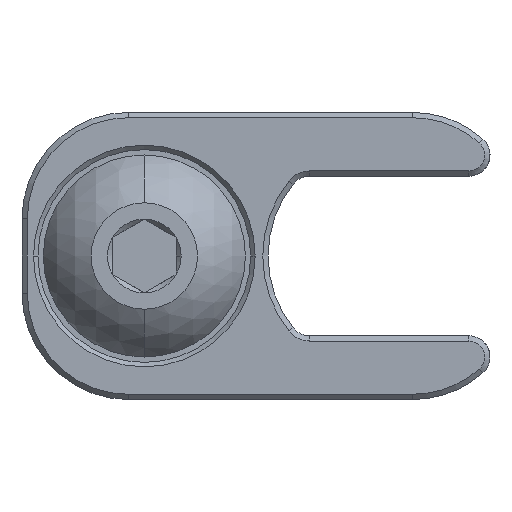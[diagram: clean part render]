
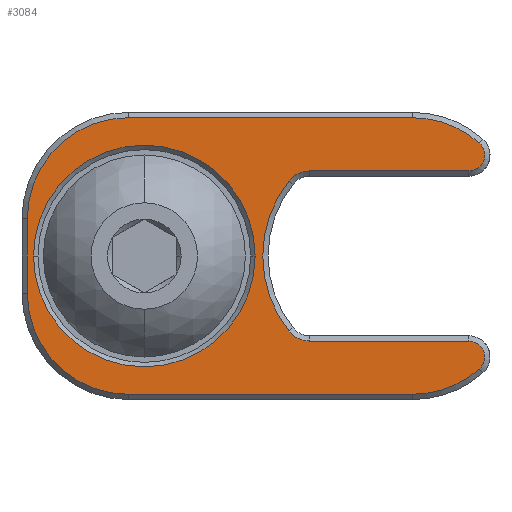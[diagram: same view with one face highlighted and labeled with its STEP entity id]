
A CAD part, front view. The second image highlights one B-rep face of the part: STEP entity #3084.
In plain terms, the highlighted planar face has unit normal (0, -1, 0) as drawn and (0, 0, -1) by its records, which use the part's own axes.
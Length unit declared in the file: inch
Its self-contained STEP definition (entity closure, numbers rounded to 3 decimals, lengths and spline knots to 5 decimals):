
#35 = EDGE_CURVE ( 'NONE', #6166, #247, #1866, .T. ) ;
#103 = DIRECTION ( 'NONE',  ( -1., 0., 0. ) ) ;
#132 = CIRCLE ( 'NONE', #3838, 0.18699 ) ;
#211 = VERTEX_POINT ( 'NONE', #4025 ) ;
#225 = FACE_BOUND ( 'NONE', #6592, .T. ) ;
#233 = CIRCLE ( 'NONE', #3285, 0.18699 ) ;
#239 = EDGE_CURVE ( 'NONE', #6177, #4937, #7211, .T. ) ;
#247 = VERTEX_POINT ( 'NONE', #6080 ) ;
#295 = CARTESIAN_POINT ( 'NONE',  ( -0.30331, 0.06891, 11.43717 ) ) ;
#450 = CARTESIAN_POINT ( 'NONE',  ( 0.40947, -0.06891, 11.43717 ) ) ;
#487 = LINE ( 'NONE', #2513, #2514 ) ;
#514 = DIRECTION ( 'NONE',  ( 0., 0., 1. ) ) ;
#553 = ORIENTED_EDGE ( 'NONE', *, *, #1670, .T. ) ;
#680 = LINE ( 'NONE', #3264, #5806 ) ;
#683 = ORIENTED_EDGE ( 'NONE', *, *, #5280, .T. ) ;
#749 = CIRCLE ( 'NONE', #6493, 0.18699 ) ;
#803 = AXIS2_PLACEMENT_3D ( 'NONE', #5541, #3586, #3545 ) ;
#806 = PLANE ( 'NONE',  #1698 ) ;
#853 = LINE ( 'NONE', #4735, #7163 ) ;
#932 = ORIENTED_EDGE ( 'NONE', *, *, #3104, .T. ) ;
#1015 = DIRECTION ( 'NONE',  ( 0., 1., 0. ) ) ;
#1033 = CIRCLE ( 'NONE', #2763, 0.02953 ) ;
#1063 = CARTESIAN_POINT ( 'NONE',  ( -0.11312, 0.15748, 11.43717 ) ) ;
#1098 = CARTESIAN_POINT ( 'NONE',  ( 0.22248, 0.06891, 11.43717 ) ) ;
#1137 = DIRECTION ( 'NONE',  ( 0., 0., 1. ) ) ;
#1186 = ORIENTED_EDGE ( 'NONE', *, *, #4013, .F. ) ;
#1214 = ORIENTED_EDGE ( 'NONE', *, *, #6333, .F. ) ;
#1491 = DIRECTION ( 'NONE',  ( 1., 0., 0. ) ) ;
#1512 = DIRECTION ( 'NONE',  ( 0., 0., 1. ) ) ;
#1528 = DIRECTION ( 'NONE',  ( 0., 0., 1. ) ) ;
#1543 = CIRCLE ( 'NONE', #7284, 0.04921 ) ;
#1558 = DIRECTION ( 'NONE',  ( 0., 0., 1. ) ) ;
#1565 = AXIS2_PLACEMENT_3D ( 'NONE', #5856, #6321, #103 ) ;
#1661 = EDGE_CURVE ( 'NONE', #247, #7386, #853, .T. ) ;
#1670 = EDGE_CURVE ( 'NONE', #7495, #5085, #4490, .T. ) ;
#1698 = AXIS2_PLACEMENT_3D ( 'NONE', #6065, #2098, #5357 ) ;
#1777 = EDGE_CURVE ( 'NONE', #2917, #1840, #233, .T. ) ;
#1787 = VERTEX_POINT ( 'NONE', #1847 ) ;
#1840 = VERTEX_POINT ( 'NONE', #6820 ) ;
#1847 = CARTESIAN_POINT ( 'NONE',  ( -0.01215, 0., 11.43717 ) ) ;
#1866 = CIRCLE ( 'NONE', #803, 0.02953 ) ;
#1908 = ORIENTED_EDGE ( 'NONE', *, *, #6308, .T. ) ;
#1925 = DIRECTION ( 'NONE',  ( 0., 0., 1. ) ) ;
#1970 = VECTOR ( 'NONE', #5823, 39.37008 ) ;
#1973 = EDGE_CURVE ( 'NONE', #2169, #7495, #2890, .T. ) ;
#2030 = EDGE_CURVE ( 'NONE', #5432, #7844, #1033, .T. ) ;
#2051 = ORIENTED_EDGE ( 'NONE', *, *, #35, .F. ) ;
#2098 = DIRECTION ( 'NONE',  ( 0., 0., -1. ) ) ;
#2146 = CARTESIAN_POINT ( 'NONE',  ( 0.19291, 0., 11.43717 ) ) ;
#2169 = VERTEX_POINT ( 'NONE', #4338 ) ;
#2197 = CARTESIAN_POINT ( 'NONE',  ( 10.24206, 0.25591, 11.43717 ) ) ;
#2257 = ORIENTED_EDGE ( 'NONE', *, *, #3707, .F. ) ;
#2267 = CARTESIAN_POINT ( 'NONE',  ( -0.40746, -0.18701, 11.43717 ) ) ;
#2311 = CARTESIAN_POINT ( 'NONE',  ( -0.42699, 0.20915, 11.43717 ) ) ;
#2428 = LINE ( 'NONE', #4975, #4889 ) ;
#2513 = CARTESIAN_POINT ( 'NONE',  ( -0.32546, -0.15748, 11.43717 ) ) ;
#2514 = VECTOR ( 'NONE', #5192, 39.37008 ) ;
#2763 = AXIS2_PLACEMENT_3D ( 'NONE', #2267, #5392, #7151 ) ;
#2795 = EDGE_CURVE ( 'NONE', #1840, #3729, #5204, .T. ) ;
#2890 = CIRCLE ( 'NONE', #1565, 0.04921 ) ;
#2917 = VERTEX_POINT ( 'NONE', #7865 ) ;
#2932 = ORIENTED_EDGE ( 'NONE', *, *, #2030, .F. ) ;
#3026 = CARTESIAN_POINT ( 'NONE',  ( -0.42699, -0.20915, 11.43717 ) ) ;
#3052 = DIRECTION ( 'NONE',  ( 1., 0., 0. ) ) ;
#3084 = ADVANCED_FACE ( 'NONE', ( #225, #7806 ), #806, .T. ) ;
#3104 = EDGE_CURVE ( 'NONE', #211, #1787, #3308, .T. ) ;
#3131 = DIRECTION ( 'NONE',  ( 1., 0., 0. ) ) ;
#3264 = CARTESIAN_POINT ( 'NONE',  ( 10.24206, -0.25591, 11.43717 ) ) ;
#3285 = AXIS2_PLACEMENT_3D ( 'NONE', #1098, #1137, #7566 ) ;
#3308 = CIRCLE ( 'NONE', #8218, 0.20506 ) ;
#3363 = CARTESIAN_POINT ( 'NONE',  ( 0.22248, -0.06891, 11.43717 ) ) ;
#3472 = AXIS2_PLACEMENT_3D ( 'NONE', #3363, #4833, #6038 ) ;
#3545 = DIRECTION ( 'NONE',  ( 1., 0., 0. ) ) ;
#3586 = DIRECTION ( 'NONE',  ( 0., 0., 1. ) ) ;
#3667 = CARTESIAN_POINT ( 'NONE',  ( -0.30331, -0.25591, 11.43717 ) ) ;
#3707 = EDGE_CURVE ( 'NONE', #3729, #6166, #132, .T. ) ;
#3729 = VERTEX_POINT ( 'NONE', #5211 ) ;
#3838 = AXIS2_PLACEMENT_3D ( 'NONE', #295, #1528, #1491 ) ;
#3840 = CARTESIAN_POINT ( 'NONE',  ( -0.07453, -0.1388, 11.43717 ) ) ;
#3999 = ORIENTED_EDGE ( 'NONE', *, *, #1777, .F. ) ;
#4013 = EDGE_CURVE ( 'NONE', #2169, #5432, #487, .T. ) ;
#4025 = CARTESIAN_POINT ( 'NONE',  ( 0.39797, 0., 11.43717 ) ) ;
#4051 = DIRECTION ( 'NONE',  ( -1., 0., 0. ) ) ;
#4108 = DIRECTION ( 'NONE',  ( -1., 0., 0. ) ) ;
#4228 = CARTESIAN_POINT ( 'NONE',  ( 0.22248, -0.25591, 11.43717 ) ) ;
#4231 = ORIENTED_EDGE ( 'NONE', *, *, #4317, .F. ) ;
#4317 = EDGE_CURVE ( 'NONE', #4937, #2917, #2428, .T. ) ;
#4338 = CARTESIAN_POINT ( 'NONE',  ( -0.11312, -0.15748, 11.43717 ) ) ;
#4339 = EDGE_CURVE ( 'NONE', #7844, #8157, #749, .T. ) ;
#4490 = CIRCLE ( 'NONE', #7946, 0.22373 ) ;
#4519 = DIRECTION ( 'NONE',  ( 0., 0., 1. ) ) ;
#4735 = CARTESIAN_POINT ( 'NONE',  ( -0.32546, 0.15748, 11.43717 ) ) ;
#4833 = DIRECTION ( 'NONE',  ( 0., 0., 1. ) ) ;
#4834 = ORIENTED_EDGE ( 'NONE', *, *, #1973, .T. ) ;
#4889 = VECTOR ( 'NONE', #1015, 39.37008 ) ;
#4937 = VERTEX_POINT ( 'NONE', #450 ) ;
#4975 = CARTESIAN_POINT ( 'NONE',  ( 0.40947, -1.01469, 11.43717 ) ) ;
#5027 = AXIS2_PLACEMENT_3D ( 'NONE', #5927, #4519, #8155 ) ;
#5085 = VERTEX_POINT ( 'NONE', #5673 ) ;
#5192 = DIRECTION ( 'NONE',  ( -1., 0., 0. ) ) ;
#5204 = LINE ( 'NONE', #2197, #1970 ) ;
#5211 = CARTESIAN_POINT ( 'NONE',  ( -0.30331, 0.25591, 11.43717 ) ) ;
#5224 = EDGE_LOOP ( 'NONE', ( #2051, #2257, #6665, #3999, #4231, #7626, #1214, #7712, #2932, #1186, #4834, #553, #1908, #5340 ) ) ;
#5280 = EDGE_CURVE ( 'NONE', #1787, #211, #5303, .T. ) ;
#5303 = CIRCLE ( 'NONE', #5027, 0.20506 ) ;
#5340 = ORIENTED_EDGE ( 'NONE', *, *, #1661, .F. ) ;
#5357 = DIRECTION ( 'NONE',  ( -1., 0., 0. ) ) ;
#5392 = DIRECTION ( 'NONE',  ( 0., 0., 1. ) ) ;
#5432 = VERTEX_POINT ( 'NONE', #7466 ) ;
#5541 = CARTESIAN_POINT ( 'NONE',  ( -0.40746, 0.18701, 11.43717 ) ) ;
#5637 = CARTESIAN_POINT ( 'NONE',  ( -0.11312, 0.10827, 11.43717 ) ) ;
#5673 = CARTESIAN_POINT ( 'NONE',  ( -0.07453, 0.1388, 11.43717 ) ) ;
#5806 = VECTOR ( 'NONE', #3131, 39.37008 ) ;
#5823 = DIRECTION ( 'NONE',  ( -1., 0., 0. ) ) ;
#5856 = CARTESIAN_POINT ( 'NONE',  ( -0.11312, -0.10827, 11.43717 ) ) ;
#5927 = CARTESIAN_POINT ( 'NONE',  ( 0.19291, 0., 11.43717 ) ) ;
#6038 = DIRECTION ( 'NONE',  ( 1., 0., 0. ) ) ;
#6065 = CARTESIAN_POINT ( 'NONE',  ( -0.25652, 0., 11.43717 ) ) ;
#6080 = CARTESIAN_POINT ( 'NONE',  ( -0.40746, 0.15748, 11.43717 ) ) ;
#6166 = VERTEX_POINT ( 'NONE', #2311 ) ;
#6177 = VERTEX_POINT ( 'NONE', #4228 ) ;
#6308 = EDGE_CURVE ( 'NONE', #5085, #7386, #1543, .T. ) ;
#6321 = DIRECTION ( 'NONE',  ( 0., 0., 1. ) ) ;
#6333 = EDGE_CURVE ( 'NONE', #8157, #6177, #680, .T. ) ;
#6493 = AXIS2_PLACEMENT_3D ( 'NONE', #8093, #514, #3052 ) ;
#6592 = EDGE_LOOP ( 'NONE', ( #683, #932 ) ) ;
#6665 = ORIENTED_EDGE ( 'NONE', *, *, #2795, .F. ) ;
#6820 = CARTESIAN_POINT ( 'NONE',  ( 0.22248, 0.25591, 11.43717 ) ) ;
#7151 = DIRECTION ( 'NONE',  ( 1., 0., 0. ) ) ;
#7163 = VECTOR ( 'NONE', #7285, 39.37008 ) ;
#7211 = CIRCLE ( 'NONE', #3472, 0.18699 ) ;
#7284 = AXIS2_PLACEMENT_3D ( 'NONE', #5637, #1925, #7644 ) ;
#7285 = DIRECTION ( 'NONE',  ( 1., 0., 0. ) ) ;
#7331 = CARTESIAN_POINT ( 'NONE',  ( -0.25, 0., 11.43717 ) ) ;
#7386 = VERTEX_POINT ( 'NONE', #1063 ) ;
#7466 = CARTESIAN_POINT ( 'NONE',  ( -0.40746, -0.15748, 11.43717 ) ) ;
#7495 = VERTEX_POINT ( 'NONE', #3840 ) ;
#7566 = DIRECTION ( 'NONE',  ( 1., 0., 0. ) ) ;
#7626 = ORIENTED_EDGE ( 'NONE', *, *, #239, .F. ) ;
#7644 = DIRECTION ( 'NONE',  ( -1., 0., 0. ) ) ;
#7712 = ORIENTED_EDGE ( 'NONE', *, *, #4339, .F. ) ;
#7806 = FACE_OUTER_BOUND ( 'NONE', #5224, .T. ) ;
#7844 = VERTEX_POINT ( 'NONE', #3026 ) ;
#7865 = CARTESIAN_POINT ( 'NONE',  ( 0.40947, 0.06891, 11.43717 ) ) ;
#7946 = AXIS2_PLACEMENT_3D ( 'NONE', #7331, #1558, #4108 ) ;
#8093 = CARTESIAN_POINT ( 'NONE',  ( -0.30331, -0.06891, 11.43717 ) ) ;
#8155 = DIRECTION ( 'NONE',  ( -1., 0., 0. ) ) ;
#8157 = VERTEX_POINT ( 'NONE', #3667 ) ;
#8218 = AXIS2_PLACEMENT_3D ( 'NONE', #2146, #1512, #4051 ) ;
